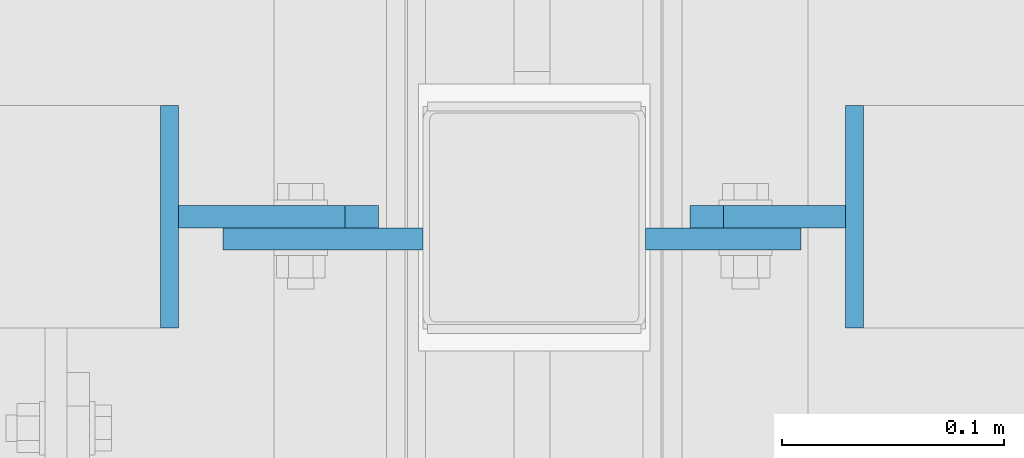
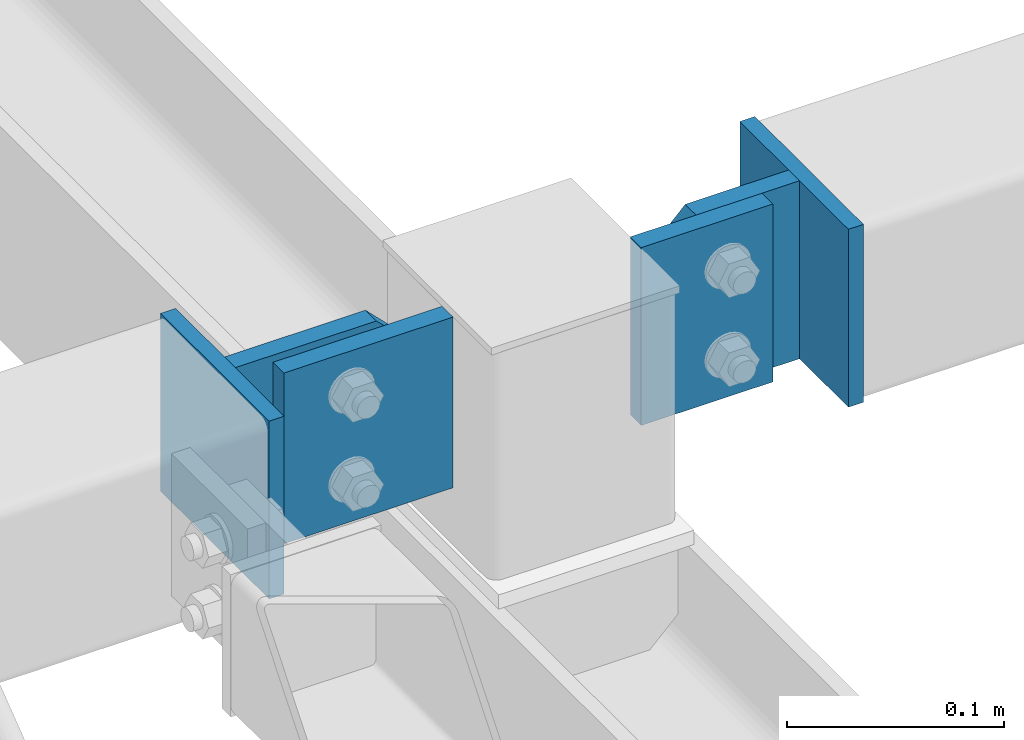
# One storey, part 127 of 271: 6 plates, 3 elements without a shape of their own.
"""IFC2X3 building model written with IfcOpenShell, lengths in millimetres."""

from ifc_helpers import new_model, si_unit, frame, origin_with_axes, place, context, subcontext, project, spatial, polyline, outline, extrude, material, type_object, element, aggregate, save


model = new_model("IFC2X3")

# Units and contexts
model_context = context("Model", 3, precision=1e-05, world=origin_with_axes())
body_context = subcontext(model_context, "Body", "Model", "MODEL_VIEW")
ifc_project = project(units=[si_unit("LENGTHUNIT", "METRE", prefix="MILLI"), si_unit("AREAUNIT", "SQUARE_METRE"), si_unit("VOLUMEUNIT", "CUBIC_METRE"), si_unit("MASSUNIT", "GRAM", prefix="KILO"), si_unit("TIMEUNIT", "SECOND"), si_unit("PLANEANGLEUNIT", "RADIAN"), si_unit("SOLIDANGLEUNIT", "STERADIAN"), si_unit("THERMODYNAMICTEMPERATUREUNIT", "DEGREE_CELSIUS"), si_unit("LUMINOUSINTENSITYUNIT", "LUMEN")], contexts=[model_context])

# Site, building, storey
site_placement = place(None, origin_with_axes())
site = spatial("IfcSite", under=ifc_project, at=site_placement, Name="Undefined", CompositionType="ELEMENT")
building_placement = place(site_placement, origin_with_axes())
building = spatial("IfcBuilding", under=site, at=building_placement, Name="Undefined", CompositionType="ELEMENT")
storey_placement = place(building_placement, origin_with_axes())
storey = spatial("IfcBuildingStorey", under=building, at=storey_placement, Name="Undefined", CompositionType="ELEMENT", Elevation=0.0)

# Assembly, plate
assembly_1_placement = place(storey_placement, origin_with_axes())
assembly_1 = element("IfcElementAssembly", 1, at=assembly_1_placement, inside=storey, AssemblyPlace="NOTDEFINED", PredefinedType="RIGID_FRAME")
ifc_material = material(Name="STEEL/S355JR")
plate_type_1 = type_object("IfcPlateType", Name="BL8*100", PredefinedType="NOTDEFINED")
plate_1_placement = place(assembly_1_placement, frame((6184.37568736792, 2749.32498425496, 20204.3499999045), z_axis=(1.0, 0.0, 0.0), x_axis=(0.0, 0.0, -1.0)))
plate_1 = element("IfcPlate", 2, at=plate_1_placement, type_object=plate_type_1, material=ifc_material, Name="BLACHA", ObjectType="BL8*100", context=body_context, shape_type="SweptSolid", body=[
    extrude(outline(polyline([(0.0, 0.0), (100.0, 0.0), (100.0, 100.0), (1.59161572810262e-12, 100.0), (0.0, 0.0)])), frame((0.0, 0.0, -4.0), z_axis=(0.0, 0.0, 1.0), x_axis=(1.0, 0.0, 0.0)), (0.0, 0.0, 1.0), 8.0),
])

# Assembly, plates
assembly_2_placement = place(storey_placement, origin_with_axes())
assembly_2 = element("IfcElementAssembly", 3, at=assembly_2_placement, inside=storey, AssemblyPlace="NOTDEFINED", PredefinedType="RIGID_FRAME")
plate_2_placement = place(assembly_2_placement, frame((6492.37568736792, 2749.32498425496, 20104.3499999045), z_axis=(-1.0, 0.0, 1.38777878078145e-17), x_axis=(0.0, 0.0, 1.0)))
plate_2 = element("IfcPlate", 4, at=plate_2_placement, type_object=plate_type_1, material=ifc_material, Name="BLACHA", ObjectType="BL8*100", context=body_context, shape_type="SweptSolid", body=[
    extrude(outline(polyline([(0.0, 0.0), (100.0, 0.0), (100.0, 100.0), (1.59161572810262e-12, 100.0), (0.0, 0.0)])), frame((0.0, 0.0, -4.0), z_axis=(0.0, 0.0, 1.0), x_axis=(1.0, 0.0, 0.0)), (0.0, 0.0, 1.0), 8.0),
])
plate_type_2 = type_object("IfcPlateType", Name="BL10*70", PredefinedType="NOTDEFINED")
plate_3_placement = place(assembly_2_placement, frame((6433.37568736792, 2799.32498425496, 20104.3499999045), z_axis=(0.0, 1.0, 0.0), x_axis=(-0.707106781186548, 0.0, 0.707106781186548)))
plate_3 = element("IfcPlate", 5, at=plate_3_placement, type_object=plate_type_2, material=ifc_material, Name="BLACHA", ObjectType="BL10*70", context=body_context, shape_type="SweptSolid", body=[
    extrude(outline(polyline([(0.0, 0.0), (21.2132034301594, 1.09139364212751e-11), (70.7106781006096, 49.4974746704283), (70.7106781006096, 70.7106781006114), (31.8198051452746, 109.601554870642), (-38.890872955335, 38.8908729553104), (0.0, 0.0)])), frame((0.0, 0.0, -5.0), z_axis=(0.0, 0.0, 1.0), x_axis=(1.0, 0.0, 0.0)), (0.0, 0.0, 1.0), 10.0),
])
aggregate(assembly_2, [plate_2, plate_3])

# Assembly, plate
assembly_3_placement = place(storey_placement, origin_with_axes())
assembly_3 = element("IfcElementAssembly", 6, at=assembly_3_placement, inside=storey, AssemblyPlace="NOTDEFINED", PredefinedType="RIGID_FRAME")
plate_4_placement = place(assembly_3_placement, frame((6398.37568736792, 2789.32498425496, 20104.3499999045), z_axis=(0.0, 1.0, 0.0), x_axis=(0.0, 0.0, 1.0)))
plate_4 = element("IfcPlate", 7, at=plate_4_placement, type_object=plate_type_2, material=ifc_material, Name="BLACHA", ObjectType="BL10*70", context=body_context, shape_type="SweptSolid", body=[
    extrude(outline(polyline([(0.0, 0.0), (100.0, 0.0), (100.0, 70.0), (0.0, 70.0), (0.0, 0.0)])), frame((0.0, 0.0, -5.0), z_axis=(0.0, 0.0, 1.0), x_axis=(1.0, 0.0, 0.0)), (0.0, 0.0, 1.0), 10.0),
])

# Plate
plate_type_3 = type_object("IfcPlateType", Name="BL10*90", PredefinedType="NOTDEFINED")
plate_5_placement = place(assembly_1_placement, frame((6263.37568736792, 2799.32498425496, 20204.3499999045), z_axis=(0.0, 1.0, 0.0), x_axis=(0.70710678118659, 0.0, -0.707106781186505)))
plate_5 = element("IfcPlate", 8, at=plate_5_placement, type_object=plate_type_3, material=ifc_material, Name="BLACHA", ObjectType="BL10*90", context=body_context, shape_type="SweptSolid", body=[
    extrude(outline(polyline([(0.0, 0.0), (21.2132034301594, 1.09139364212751e-11), (70.7106781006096, 49.4974746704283), (70.7106781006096, 70.7106781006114), (17.6776695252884, 123.743690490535), (-53.033008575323, 53.0330085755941), (0.0, 0.0)])), frame((0.0, 0.0, -5.0), z_axis=(0.0, 0.0, 1.0), x_axis=(1.0, 0.0, 0.0)), (0.0, 0.0, 1.0), 10.0),
])

aggregate(assembly_1, [plate_1, plate_5])

plate_6_placement = place(assembly_3_placement, frame((6298.37568736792, 2789.32498425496, 20200.3499999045), z_axis=(0.0, 1.0, 0.0), x_axis=(0.0, 0.0, -1.0)))
plate_6 = element("IfcPlate", 9, at=plate_6_placement, type_object=plate_type_3, material=ifc_material, Name="BLACHA", ObjectType="BL10*90", context=body_context, shape_type="SweptSolid", body=[
    extrude(outline(polyline([(0.0, 0.0), (96.0, 0.0), (96.0, 90.0), (0.0, 90.0), (0.0, 0.0)])), frame((0.0, 0.0, -5.0), z_axis=(0.0, 0.0, 1.0), x_axis=(1.0, 0.0, 0.0)), (0.0, 0.0, 1.0), 10.0),
])

aggregate(assembly_3, [plate_6, plate_4])

save(model, "model.ifc")
